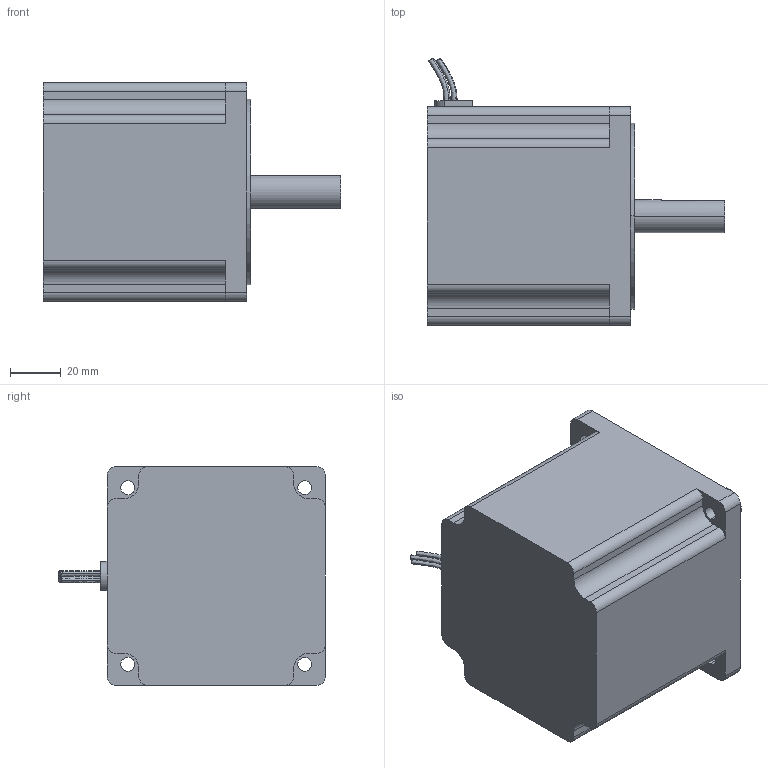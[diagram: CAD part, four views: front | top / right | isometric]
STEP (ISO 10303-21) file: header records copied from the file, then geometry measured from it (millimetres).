
FILE_DESCRIPTION (( 'STEP AP203' ), '1' );
FILE_NAME ('2S86Q-030B8 装配.STEP', '2012-02-08T03:43:44', ( '微软用户' ), ( '微软中国' ), 'SwSTEP 2.0', 'SolidWorks 2008', '' );
FILE_SCHEMA (( 'CONFIG_CONTROL_DESIGN' ));
Length unit declared in the file: millimetre
Products named in the file (3): 2S86Q-030B8 蚾饜; 2S86Q-03080_默认; 电线_默认
Assembly tree (5 placements, depth 2):
  2S86Q-030B8 蚾饜
    电线_默认  x4
    2S86Q-03080_默认
Bounding box: 117 x 104.91 x 85.85 mm (x, y, z)
Volume: 556214.7 mm3; surface area: 43349.9 mm2
Topology: 5 solids, 5 shells, 74 faces, 180 edges, 120 vertices
Faces by surface type: plane 35, cylinder 31, bspline 8
Entity records: 2479 total; most frequent: CARTESIAN_POINT 480, DIRECTION 364, ORIENTED_EDGE 324, EDGE_CURVE 162, AXIS2_PLACEMENT_3D 136, VERTEX_POINT 108, VECTOR 92, LINE 92
